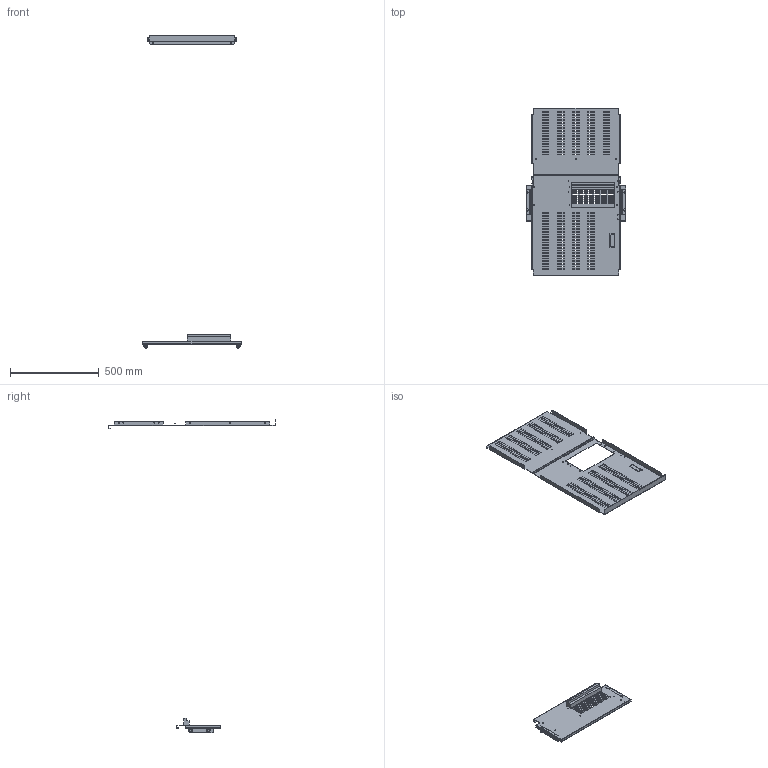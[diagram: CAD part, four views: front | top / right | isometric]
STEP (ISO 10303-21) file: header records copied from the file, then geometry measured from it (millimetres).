
FILE_DESCRIPTION(('CAx-IF Rec.Pracs.---Model Styling and Organization---1.2---2011-12-15','CAx-IF Rec.Pracs.---Geometric and Assembly Validation Properties---4.1---2014-06-16','CAx-IF Rec.Pracs.---PMI Polyline Presentation---2.0---2013-05-24'),'2;1');
FILE_NAME('R5M2UBFRNG12 (2200x600x(400+800)) (2).stp','2021-05-05T12:05:51+03:00',(''),(''),'STEP Interface 4.4 by CT CoreTechnologie','3D_Evolution4.4 by CT CoreTechnologie','');
FILE_SCHEMA(('AUTOMOTIVE_DESIGN { 1 0 10303 214 1 1 1 1 }'));
Length unit declared in the file: millimetre
Products named in the file (10): R5M2UBFRNG (2200õ600õ; M8-DIN 6923 (CM100800)_thread; M6x16-DIN 7985 ISR_stright; M8x16-DIN 6921_thread; RB.0835.00.00.0_-00; RB.0837.00.00.0_-00; RB.0837.00.00.0_-01; RB.0792.00.00.0_-00; RB.0834.00.00.1_-00; RB.1735.00.00.0
Assembly tree (18 placements, depth 2):
  R5M2UBFRNG (2200õ600õ
    M8-DIN 6923 (CM100800)_thread  x4
    M6x16-DIN 7985 ISR_stright  x4
    M8x16-DIN 6921_thread  x4
    RB.0835.00.00.0_-00
    RB.0837.00.00.0_-00
    RB.0837.00.00.0_-01
    RB.0792.00.00.0_-00
    RB.0834.00.00.1_-00
    RB.1735.00.00.0
Bounding box: 559 x 945.5 x 1767 mm (x, y, z)
Surface area: 1409892.6 mm2 (no closed solid volume)
Topology: 0 solids, 22 shells, 1671 faces, 4510 edges, 2873 vertices
Faces by surface type: plane 1168, bspline 280, cylinder 223
Entity records: 46535 total; most frequent: CARTESIAN_POINT 9465, ORIENTED_EDGE 7750, DIRECTION 6824, EDGE_CURVE 3877, VECTOR 3412, LINE 3412, VERTEX_POINT 2525, EDGE_LOOP 1904
